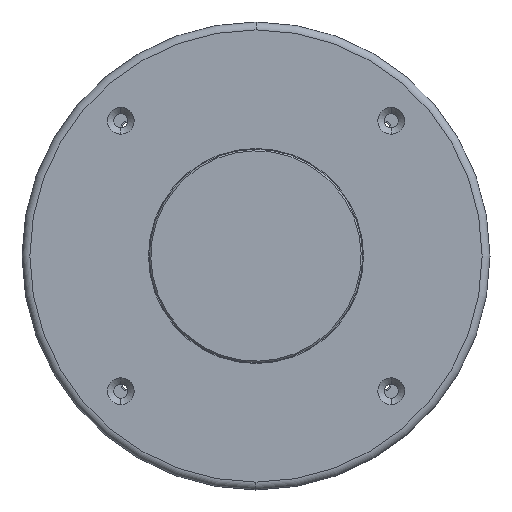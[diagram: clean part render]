
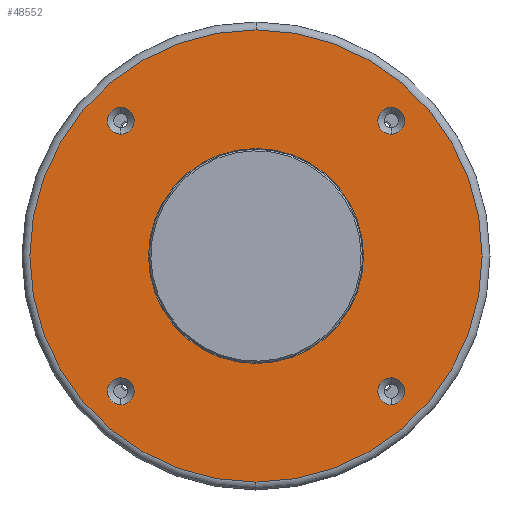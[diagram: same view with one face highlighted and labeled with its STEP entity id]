
A CAD part, left-side view. The second image highlights one B-rep face of the part: STEP entity #48552.
In plain terms, the highlighted planar face has unit normal (-1, 0, 0).
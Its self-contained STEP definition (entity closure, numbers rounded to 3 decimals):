
#879 = AXIS2_PLACEMENT_3D ( 'NONE', #18106, #64568, #13650 ) ;
#973 = PLANE ( 'NONE',  #42945 ) ;
#1073 = DIRECTION ( 'NONE',  ( 1., 0., 0. ) ) ;
#1133 = CIRCLE ( 'NONE', #879, 4.25 ) ;
#1647 = DIRECTION ( 'NONE',  ( -1., 0., 0. ) ) ;
#2525 = CIRCLE ( 'NONE', #52714, 4.25 ) ;
#2904 = DIRECTION ( 'NONE',  ( 1., 0., 0. ) ) ;
#3723 = DIRECTION ( 'NONE',  ( -1., 0., 0. ) ) ;
#4652 = CARTESIAN_POINT ( 'NONE',  ( -31.6, 0., 0. ) ) ;
#4747 = ORIENTED_EDGE ( 'NONE', *, *, #31156, .T. ) ;
#6808 = DIRECTION ( 'NONE',  ( 0., 0., -1. ) ) ;
#7928 = CARTESIAN_POINT ( 'NONE',  ( -31.6, -42.78, 47.03 ) ) ;
#7930 = EDGE_CURVE ( 'NONE', #58702, #41291, #2525, .T. ) ;
#8190 = VERTEX_POINT ( 'NONE', #33265 ) ;
#8230 = EDGE_CURVE ( 'NONE', #34614, #59781, #37658, .T. ) ;
#9431 = CARTESIAN_POINT ( 'NONE',  ( -31.6, -42.78, 38.53 ) ) ;
#9610 = DIRECTION ( 'NONE',  ( 0., 0., -1. ) ) ;
#10110 = ORIENTED_EDGE ( 'NONE', *, *, #11374, .T. ) ;
#10121 = EDGE_CURVE ( 'NONE', #12152, #40896, #49770, .T. ) ;
#11374 = EDGE_CURVE ( 'NONE', #41291, #58702, #21674, .T. ) ;
#11670 = ORIENTED_EDGE ( 'NONE', *, *, #55710, .T. ) ;
#12152 = VERTEX_POINT ( 'NONE', #9431 ) ;
#12704 = EDGE_CURVE ( 'NONE', #18504, #60632, #37491, .T. ) ;
#12801 = CARTESIAN_POINT ( 'NONE',  ( -31.6, -42.78, -42.78 ) ) ;
#13247 = DIRECTION ( 'NONE',  ( 0., 0., -1. ) ) ;
#13650 = DIRECTION ( 'NONE',  ( 0., 0., -1. ) ) ;
#14566 = CARTESIAN_POINT ( 'NONE',  ( -31.6, -42.78, -47.03 ) ) ;
#16175 = EDGE_CURVE ( 'NONE', #22487, #25543, #26884, .T. ) ;
#16286 = FACE_BOUND ( 'NONE', #51432, .T. ) ;
#17126 = CARTESIAN_POINT ( 'NONE',  ( -31.6, 0., 71.5 ) ) ;
#18106 = CARTESIAN_POINT ( 'NONE',  ( -31.6, -42.78, 42.78 ) ) ;
#18504 = VERTEX_POINT ( 'NONE', #39269 ) ;
#20179 = CARTESIAN_POINT ( 'NONE',  ( -31.6, -42.78, 42.78 ) ) ;
#21021 = EDGE_CURVE ( 'NONE', #8190, #42214, #58438, .T. ) ;
#21197 = AXIS2_PLACEMENT_3D ( 'NONE', #47842, #43371, #33087 ) ;
#21342 = DIRECTION ( 'NONE',  ( -1., 0., 0. ) ) ;
#21444 = DIRECTION ( 'NONE',  ( 0., 0., -1. ) ) ;
#21674 = CIRCLE ( 'NONE', #49468, 4.25 ) ;
#21799 = CARTESIAN_POINT ( 'NONE',  ( -31.6, 0., 0. ) ) ;
#21851 = FACE_BOUND ( 'NONE', #35613, .T. ) ;
#22254 = EDGE_LOOP ( 'NONE', ( #45696, #40256 ) ) ;
#22487 = VERTEX_POINT ( 'NONE', #17126 ) ;
#23061 = ORIENTED_EDGE ( 'NONE', *, *, #16175, .T. ) ;
#23304 = AXIS2_PLACEMENT_3D ( 'NONE', #61486, #26375, #26604 ) ;
#24018 = AXIS2_PLACEMENT_3D ( 'NONE', #55185, #30105, #44628 ) ;
#24348 = CARTESIAN_POINT ( 'NONE',  ( -31.6, 42.78, -47.03 ) ) ;
#25311 = DIRECTION ( 'NONE',  ( 0., 0., -1. ) ) ;
#25543 = VERTEX_POINT ( 'NONE', #38520 ) ;
#26375 = DIRECTION ( 'NONE',  ( 1., 0., 0. ) ) ;
#26604 = DIRECTION ( 'NONE',  ( 0., 0., -1. ) ) ;
#26884 = CIRCLE ( 'NONE', #59934, 71.5 ) ;
#27411 = ORIENTED_EDGE ( 'NONE', *, *, #7930, .T. ) ;
#29051 = DIRECTION ( 'NONE',  ( -1., 0., 0. ) ) ;
#29089 = DIRECTION ( 'NONE',  ( 1., 0., 0. ) ) ;
#29772 = EDGE_CURVE ( 'NONE', #60632, #18504, #38505, .T. ) ;
#29870 = FACE_BOUND ( 'NONE', #48567, .T. ) ;
#30105 = DIRECTION ( 'NONE',  ( 1., 0., 0. ) ) ;
#31043 = CARTESIAN_POINT ( 'NONE',  ( -31.6, -42.78, -42.78 ) ) ;
#31156 = EDGE_CURVE ( 'NONE', #40896, #12152, #1133, .T. ) ;
#32178 = ORIENTED_EDGE ( 'NONE', *, *, #29772, .F. ) ;
#33087 = DIRECTION ( 'NONE',  ( 0., 0., -1. ) ) ;
#33265 = CARTESIAN_POINT ( 'NONE',  ( -31.6, 42.78, 47.03 ) ) ;
#34158 = CARTESIAN_POINT ( 'NONE',  ( -31.6, 0., 0. ) ) ;
#34296 = EDGE_LOOP ( 'NONE', ( #11670, #23061 ) ) ;
#34614 = VERTEX_POINT ( 'NONE', #38178 ) ;
#35613 = EDGE_LOOP ( 'NONE', ( #47615, #62395 ) ) ;
#35973 = ORIENTED_EDGE ( 'NONE', *, *, #10121, .T. ) ;
#36281 = CARTESIAN_POINT ( 'NONE',  ( -31.6, -42.78, -38.53 ) ) ;
#36531 = DIRECTION ( 'NONE',  ( 0., 0., -1. ) ) ;
#37491 = CIRCLE ( 'NONE', #58485, 34. ) ;
#37658 = CIRCLE ( 'NONE', #24018, 4.25 ) ;
#38178 = CARTESIAN_POINT ( 'NONE',  ( -31.6, 42.78, -38.53 ) ) ;
#38505 = CIRCLE ( 'NONE', #44570, 34. ) ;
#38520 = CARTESIAN_POINT ( 'NONE',  ( -31.6, 0., -71.5 ) ) ;
#39269 = CARTESIAN_POINT ( 'NONE',  ( -31.6, 0., 34. ) ) ;
#40256 = ORIENTED_EDGE ( 'NONE', *, *, #8230, .T. ) ;
#40389 = DIRECTION ( 'NONE',  ( -1., 0., 0. ) ) ;
#40896 = VERTEX_POINT ( 'NONE', #7928 ) ;
#41291 = VERTEX_POINT ( 'NONE', #14566 ) ;
#41854 = FACE_BOUND ( 'NONE', #64306, .T. ) ;
#42214 = VERTEX_POINT ( 'NONE', #50145 ) ;
#42586 = EDGE_CURVE ( 'NONE', #42214, #8190, #54396, .T. ) ;
#42945 = AXIS2_PLACEMENT_3D ( 'NONE', #56476, #21342, #36531 ) ;
#43371 = DIRECTION ( 'NONE',  ( 1., 0., 0. ) ) ;
#44385 = DIRECTION ( 'NONE',  ( 0., 0., -1. ) ) ;
#44570 = AXIS2_PLACEMENT_3D ( 'NONE', #4652, #40389, #9610 ) ;
#44628 = DIRECTION ( 'NONE',  ( 0., 0., -1. ) ) ;
#45294 = DIRECTION ( 'NONE',  ( 0., 0., -1. ) ) ;
#45696 = ORIENTED_EDGE ( 'NONE', *, *, #55453, .T. ) ;
#46314 = ORIENTED_EDGE ( 'NONE', *, *, #12704, .F. ) ;
#47615 = ORIENTED_EDGE ( 'NONE', *, *, #42586, .T. ) ;
#47842 = CARTESIAN_POINT ( 'NONE',  ( -31.6, 42.78, 42.78 ) ) ;
#48552 = ADVANCED_FACE ( 'NONE', ( #53054, #29870, #16286, #21851, #56258, #41854 ), #973, .T. ) ;
#48567 = EDGE_LOOP ( 'NONE', ( #35973, #4747 ) ) ;
#49468 = AXIS2_PLACEMENT_3D ( 'NONE', #12801, #2904, #13247 ) ;
#49770 = CIRCLE ( 'NONE', #63931, 4.25 ) ;
#50145 = CARTESIAN_POINT ( 'NONE',  ( -31.6, 42.78, 38.53 ) ) ;
#51360 = CIRCLE ( 'NONE', #60133, 71.5 ) ;
#51432 = EDGE_LOOP ( 'NONE', ( #10110, #27411 ) ) ;
#52714 = AXIS2_PLACEMENT_3D ( 'NONE', #31043, #1073, #21444 ) ;
#53054 = FACE_BOUND ( 'NONE', #22254, .T. ) ;
#53746 = CARTESIAN_POINT ( 'NONE',  ( -31.6, 0., -34. ) ) ;
#54396 = CIRCLE ( 'NONE', #21197, 4.25 ) ;
#54574 = CIRCLE ( 'NONE', #23304, 4.25 ) ;
#55035 = DIRECTION ( 'NONE',  ( 0., 0., -1. ) ) ;
#55185 = CARTESIAN_POINT ( 'NONE',  ( -31.6, 42.78, -42.78 ) ) ;
#55453 = EDGE_CURVE ( 'NONE', #59781, #34614, #54574, .T. ) ;
#55710 = EDGE_CURVE ( 'NONE', #25543, #22487, #51360, .T. ) ;
#55966 = DIRECTION ( 'NONE',  ( 1., 0., 0. ) ) ;
#56258 = FACE_OUTER_BOUND ( 'NONE', #34296, .T. ) ;
#56476 = CARTESIAN_POINT ( 'NONE',  ( -31.6, -34., 0. ) ) ;
#58438 = CIRCLE ( 'NONE', #65720, 4.25 ) ;
#58485 = AXIS2_PLACEMENT_3D ( 'NONE', #21799, #1647, #6808 ) ;
#58702 = VERTEX_POINT ( 'NONE', #36281 ) ;
#59781 = VERTEX_POINT ( 'NONE', #24348 ) ;
#59934 = AXIS2_PLACEMENT_3D ( 'NONE', #60064, #3723, #44385 ) ;
#60064 = CARTESIAN_POINT ( 'NONE',  ( -31.6, 0., 0. ) ) ;
#60133 = AXIS2_PLACEMENT_3D ( 'NONE', #34158, #29051, #45294 ) ;
#60632 = VERTEX_POINT ( 'NONE', #53746 ) ;
#61486 = CARTESIAN_POINT ( 'NONE',  ( -31.6, 42.78, -42.78 ) ) ;
#62395 = ORIENTED_EDGE ( 'NONE', *, *, #21021, .T. ) ;
#63931 = AXIS2_PLACEMENT_3D ( 'NONE', #20179, #55966, #25311 ) ;
#64306 = EDGE_LOOP ( 'NONE', ( #32178, #46314 ) ) ;
#64568 = DIRECTION ( 'NONE',  ( 1., 0., 0. ) ) ;
#64864 = CARTESIAN_POINT ( 'NONE',  ( -31.6, 42.78, 42.78 ) ) ;
#65720 = AXIS2_PLACEMENT_3D ( 'NONE', #64864, #29089, #55035 ) ;
